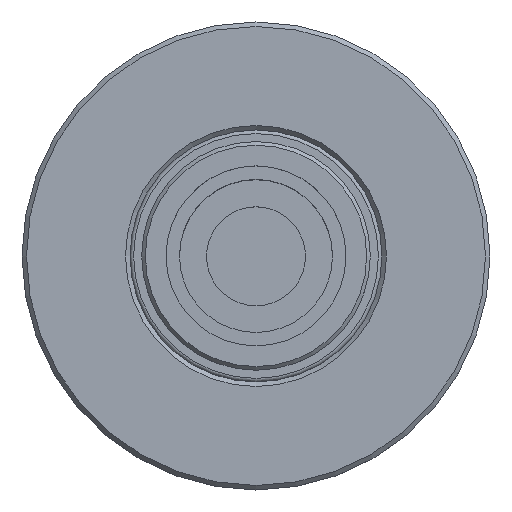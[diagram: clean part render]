
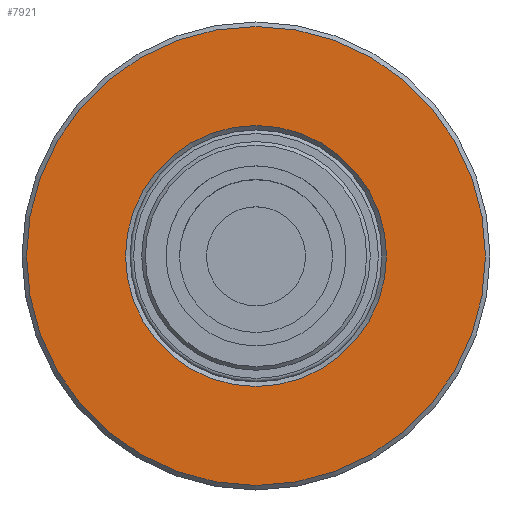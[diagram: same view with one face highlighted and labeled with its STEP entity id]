
A CAD part, top view. The second image highlights one B-rep face of the part: STEP entity #7921.
In plain terms, the highlighted planar face has unit normal (0, 0, 1).
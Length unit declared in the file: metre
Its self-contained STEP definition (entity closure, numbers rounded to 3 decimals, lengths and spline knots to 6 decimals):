
#7921=ADVANCED_FACE('1:11066',(#20372,#20373),#20374,.T.);
#14367=EDGE_CURVE('1:12299',#29129,#29129,#29130,.T.);
#14369=EDGE_CURVE('1:12036',#29132,#29132,#29133,.T.);
#20372=FACE_BOUND('',#35857,.T.);
#20373=FACE_OUTER_BOUND('',#35858,.T.);
#20374=PLANE('',#35859);
#29129=VERTEX_POINT('',#51248);
#29130=CIRCLE('',#51249,0.0145);
#29132=VERTEX_POINT('',#51252);
#29133=CIRCLE('',#51253,0.0255);
#35857=EDGE_LOOP('',(#66548));
#35858=EDGE_LOOP('',(#66549));
#35859=AXIS2_PLACEMENT_3D('',#66550,#66551,#66552);
#51248=CARTESIAN_POINT('',(0.0145,0.0,0.0754));
#51249=AXIS2_PLACEMENT_3D('',#74234,#74235,#74236);
#51252=CARTESIAN_POINT('',(0.0255,0.0,0.0754));
#51253=AXIS2_PLACEMENT_3D('',#74237,#74238,#74239);
#66548=ORIENTED_EDGE('',*,*,#14367,.T.);
#66549=ORIENTED_EDGE('',*,*,#14369,.T.);
#66550=CARTESIAN_POINT('',(0.0,0.0,0.0754));
#66551=DIRECTION('',(0.0,0.0,1.0));
#66552=DIRECTION('',(1.0,0.0,0.0));
#74234=CARTESIAN_POINT('',(0.0,0.0,0.0754));
#74235=DIRECTION('',(0.0,0.0,-1.0));
#74236=DIRECTION('',(1.0,0.0,0.0));
#74237=CARTESIAN_POINT('',(0.0,0.0,0.0754));
#74238=DIRECTION('',(0.0,0.0,1.0));
#74239=DIRECTION('',(1.0,0.0,-0.0));
